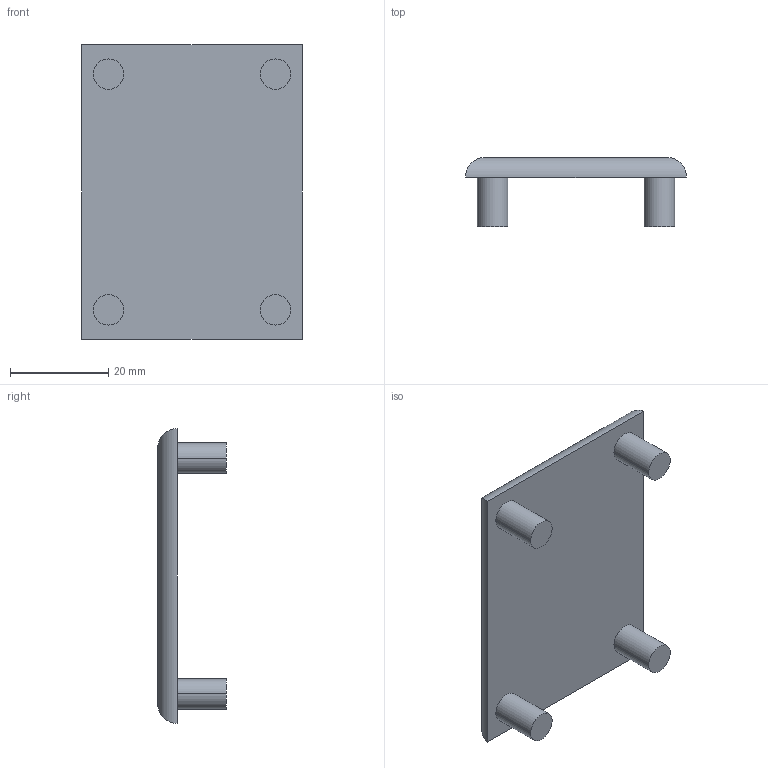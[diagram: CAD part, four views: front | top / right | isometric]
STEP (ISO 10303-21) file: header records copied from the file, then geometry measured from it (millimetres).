
FILE_DESCRIPTION((''),'2;1');
FILE_NAME('TAC456010','2002-12-27T',('Lipro doo'),('Lipro d.o.o.'),'PRO/ENGINEER BY PARAMETRIC TECHNOLOGY CORPORATION, 2001150','PRO/ENGINEER BY PARAMETRIC TECHNOLOGY CORPORATION, 2001150','');
FILE_SCHEMA(('CONFIG_CONTROL_DESIGN'));
Length unit declared in the file: millimetre
Products named in the file (1): TAC456010
Bounding box: 45 x 14 x 60 mm (x, y, z)
Volume: 11311.1 mm3; surface area: 6649.5 mm2
Topology: 1 solids, 1 shells, 18 faces, 36 edges, 24 vertices
Faces by surface type: cylinder 12, plane 6
Entity records: 558 total; most frequent: CARTESIAN_POINT 130, DIRECTION 84, ORIENTED_EDGE 72, EDGE_CURVE 36, AXIS2_PLACEMENT_3D 34, VERTEX_POINT 24, EDGE_LOOP 22, FACE_OUTER_BOUND 18
